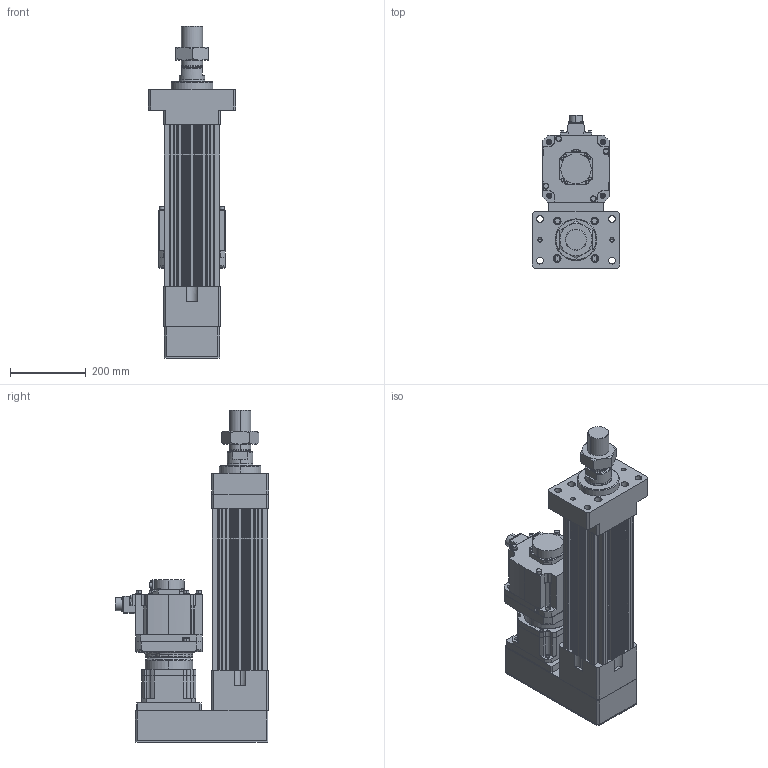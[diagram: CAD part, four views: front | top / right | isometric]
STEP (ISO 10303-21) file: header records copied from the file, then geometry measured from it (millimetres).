
FILE_DESCRIPTION (( 'STEP AP203' ), '1' );
FILE_NAME ('HES150NS(HS)-P150-W035G00-M-FMA.STEP', '2023-01-31T10:11:28', ( 'tms' ), ( '' ), 'SwSTEP 2.0', 'SolidWorks 2013', '' );
FILE_SCHEMA (( 'CONFIG_CONTROL_DESIGN' ));
Length unit declared in the file: millimetre
Products named in the file (9): AB1421; HES150-P150-G142-FMA; HES150 ROD M ST150; P1301500001; M56X2.0P; P0403500801; HG-SR352; HES150NS(HS)-P150-W035G00-M-FMA; AB142-003[HG-SR352]
Assembly tree (8 placements, depth 3):
  HES150NS(HS)-P150-W035G00-M-FMA
    HES150-P150-G142-FMA
    HES150 ROD M ST150
    M56X2.0P
    AB142-003[HG-SR352]
      AB1421
      P1301500001
      P0403500801
    HG-SR352
Bounding box: 230 x 403.85 x 876 mm (x, y, z)
Volume: 16917332.7 mm3; surface area: 1557792.9 mm2
Topology: 4 solids, 18 shells, 1426 faces, 3722 edges, 2416 vertices
Faces by surface type: cylinder 669, plane 531, cone 144, bspline 76, torus 6
Entity records: 52806 total; most frequent: CARTESIAN_POINT 16363, DIRECTION 7620, ORIENTED_EDGE 7346, EDGE_CURVE 3695, AXIS2_PLACEMENT_3D 2898, VERTEX_POINT 2416, VECTOR 1824, LINE 1824
